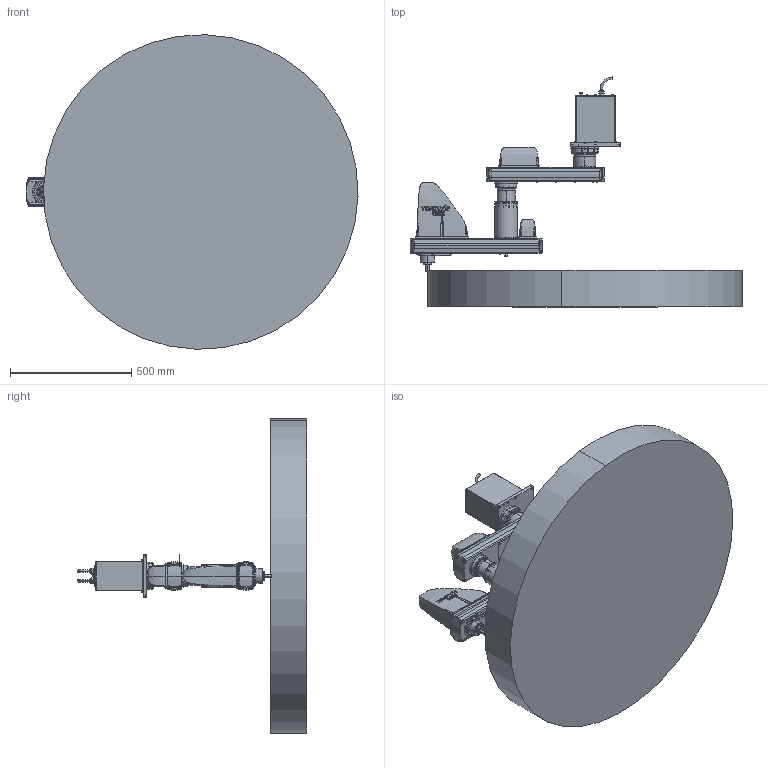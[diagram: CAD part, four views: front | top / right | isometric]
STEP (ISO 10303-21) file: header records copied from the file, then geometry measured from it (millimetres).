
FILE_DESCRIPTION (( 'STEP AP203' ), '1' );
FILE_NAME ('TRD001-650-150-S_机器人(STEP).STEP', '2024-12-10T03:14:00', ( '' ), ( '' ), 'SwSTEP 2.0', 'SolidWorks 2023', '' );
FILE_SCHEMA (( 'CONFIG_CONTROL_DESIGN' ));
Length unit declared in the file: millimetre
Products named in the file (6): TRD001-650-150-S_1; TRD001-650-150-S_4; TRD001-650-150-S_3.; TRD001-650-150-S_机器人(STEP); TRD001-650-150-S_Space; TRD001-650-150-S_2
Assembly tree (5 placements, depth 2):
  TRD001-650-150-S_机器人(STEP)
    TRD001-650-150-S_1
    TRD001-650-150-S_2
    TRD001-650-150-S_3.
    TRD001-650-150-S_4
    TRD001-650-150-S_Space
Bounding box: 1371.74 x 949.4 x 1299.48 mm (x, y, z)
Volume: 212085337.2 mm3; surface area: 4236164.1 mm2
Topology: 4 solids, 175 shells, 5365 faces, 12420 edges, 7550 vertices
Faces by surface type: plane 2505, cylinder 1474, cone 556, bspline 413, torus 267, sphere 150
Entity records: 186789 total; most frequent: CARTESIAN_POINT 66706, DIRECTION 24942, ORIENTED_EDGE 24426, EDGE_CURVE 12222, AXIS2_PLACEMENT_3D 9545, VERTEX_POINT 7550, EDGE_LOOP 5967, LINE 5852
